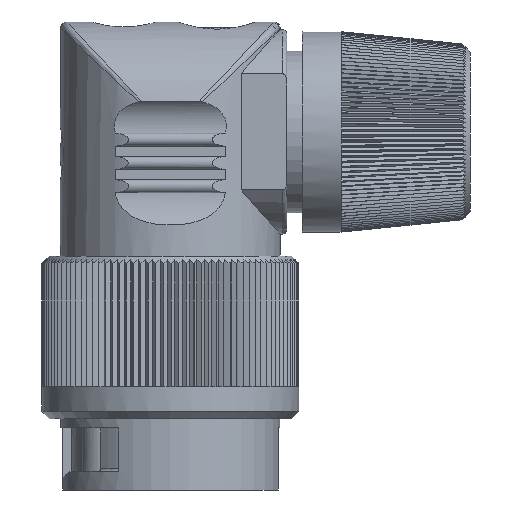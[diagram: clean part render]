
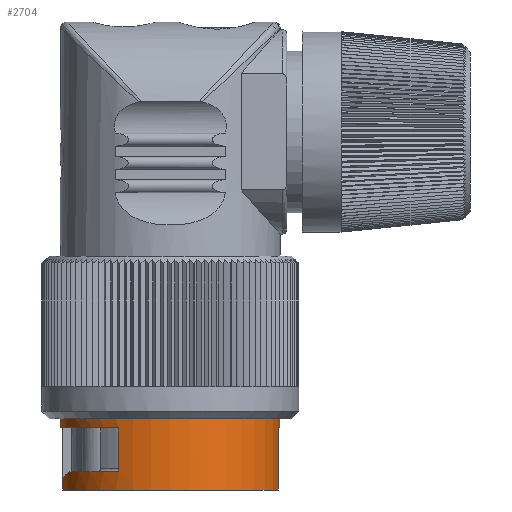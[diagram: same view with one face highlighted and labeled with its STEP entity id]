
A CAD part, front view. The second image highlights one B-rep face of the part: STEP entity #2704.
In plain terms, the highlighted cylindrical face has radius 8.475 mm (diameter 16.95 mm), a full revolution.
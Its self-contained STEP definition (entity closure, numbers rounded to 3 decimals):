
#113=ELLIPSE('',#16898,8.774,8.475);
#114=ELLIPSE('',#16902,8.774,8.475);
#2151=B_SPLINE_CURVE_WITH_KNOTS('',3,(#24173,#24174,#24175,#24176,#24177,
#24178,#24179,#24180,#24181,#24182,#24183,#24184,#24185),.UNSPECIFIED.,.F.,
 .F.,(4,3,3,3,4),(0.,0.261,0.523,0.781,
1.),.UNSPECIFIED.);
#2152=B_SPLINE_CURVE_WITH_KNOTS('',3,(#24201,#24202,#24203,#24204,#24205,
#24206,#24207,#24208,#24209,#24210,#24211,#24212,#24213),.UNSPECIFIED.,.F.,
 .F.,(4,3,3,3,4),(0.,0.261,0.523,0.781,
1.),.UNSPECIFIED.);
#2704=ADVANCED_FACE('',(#3691,#3692),#3647,.T.);
#3647=CYLINDRICAL_SURFACE('',#16907,8.475);
#3691=FACE_BOUND('',#3776,.T.);
#3692=FACE_BOUND('',#3777,.T.);
#3776=EDGE_LOOP('',(#6044,#6045,#6046,#6047,#6048,#6049,#6050,#6051,#6052,
#6053,#6054,#6055,#6056,#6057,#6058,#6059));
#3777=EDGE_LOOP('',(#6060));
#4974=CIRCLE('',#16899,8.475);
#4975=CIRCLE('',#16900,8.475);
#4976=CIRCLE('',#16901,8.475);
#4977=CIRCLE('',#16903,8.475);
#4978=CIRCLE('',#16904,8.475);
#4979=CIRCLE('',#16905,8.475);
#4980=CIRCLE('',#16906,8.475);
#6044=ORIENTED_EDGE('',*,*,#12503,.T.);
#6045=ORIENTED_EDGE('',*,*,#12504,.T.);
#6046=ORIENTED_EDGE('',*,*,#12505,.T.);
#6047=ORIENTED_EDGE('',*,*,#12506,.T.);
#6048=ORIENTED_EDGE('',*,*,#12507,.F.);
#6049=ORIENTED_EDGE('',*,*,#12508,.T.);
#6050=ORIENTED_EDGE('',*,*,#12509,.T.);
#6051=ORIENTED_EDGE('',*,*,#12510,.F.);
#6052=ORIENTED_EDGE('',*,*,#12511,.T.);
#6053=ORIENTED_EDGE('',*,*,#12512,.T.);
#6054=ORIENTED_EDGE('',*,*,#12513,.T.);
#6055=ORIENTED_EDGE('',*,*,#12514,.T.);
#6056=ORIENTED_EDGE('',*,*,#12515,.F.);
#6057=ORIENTED_EDGE('',*,*,#12516,.T.);
#6058=ORIENTED_EDGE('',*,*,#12517,.T.);
#6059=ORIENTED_EDGE('',*,*,#12518,.F.);
#6060=ORIENTED_EDGE('',*,*,#12519,.F.);
#10805=VERTEX_POINT('',#24171);
#10806=VERTEX_POINT('',#24172);
#10807=VERTEX_POINT('',#24186);
#10808=VERTEX_POINT('',#24188);
#10809=VERTEX_POINT('',#24190);
#10810=VERTEX_POINT('',#24192);
#10811=VERTEX_POINT('',#24194);
#10812=VERTEX_POINT('',#24196);
#10813=VERTEX_POINT('',#24198);
#10814=VERTEX_POINT('',#24200);
#10815=VERTEX_POINT('',#24214);
#10816=VERTEX_POINT('',#24216);
#10817=VERTEX_POINT('',#24218);
#10818=VERTEX_POINT('',#24220);
#10819=VERTEX_POINT('',#24222);
#10820=VERTEX_POINT('',#24224);
#10821=VERTEX_POINT('',#24227);
#12503=EDGE_CURVE('',#10805,#10806,#113,.T.);
#12504=EDGE_CURVE('',#10806,#10807,#2151,.T.);
#12505=EDGE_CURVE('',#10807,#10808,#14568,.T.);
#12506=EDGE_CURVE('',#10808,#10809,#4974,.T.);
#12507=EDGE_CURVE('',#10810,#10809,#14569,.T.);
#12508=EDGE_CURVE('',#10810,#10811,#4975,.T.);
#12509=EDGE_CURVE('',#10811,#10812,#14570,.T.);
#12510=EDGE_CURVE('',#10813,#10812,#4976,.T.);
#12511=EDGE_CURVE('',#10813,#10814,#114,.T.);
#12512=EDGE_CURVE('',#10814,#10815,#2152,.T.);
#12513=EDGE_CURVE('',#10815,#10816,#14571,.T.);
#12514=EDGE_CURVE('',#10816,#10817,#4977,.T.);
#12515=EDGE_CURVE('',#10818,#10817,#14572,.T.);
#12516=EDGE_CURVE('',#10818,#10819,#4978,.T.);
#12517=EDGE_CURVE('',#10819,#10820,#14573,.T.);
#12518=EDGE_CURVE('',#10805,#10820,#4979,.T.);
#12519=EDGE_CURVE('',#10821,#10821,#4980,.T.);
#14568=LINE('',#24187,#15732);
#14569=LINE('',#24191,#15733);
#14570=LINE('',#24195,#15734);
#14571=LINE('',#24215,#15735);
#14572=LINE('',#24219,#15736);
#14573=LINE('',#24223,#15737);
#15732=VECTOR('',#18834,1.);
#15733=VECTOR('',#18837,1.);
#15734=VECTOR('',#18840,1.);
#15735=VECTOR('',#18845,1.);
#15736=VECTOR('',#18848,1.);
#15737=VECTOR('',#18851,1.);
#16898=AXIS2_PLACEMENT_3D('',#24170,#18832,#18833);
#16899=AXIS2_PLACEMENT_3D('',#24189,#18835,#18836);
#16900=AXIS2_PLACEMENT_3D('',#24193,#18838,#18839);
#16901=AXIS2_PLACEMENT_3D('',#24197,#18841,#18842);
#16902=AXIS2_PLACEMENT_3D('',#24199,#18843,#18844);
#16903=AXIS2_PLACEMENT_3D('',#24217,#18846,#18847);
#16904=AXIS2_PLACEMENT_3D('',#24221,#18849,#18850);
#16905=AXIS2_PLACEMENT_3D('',#24225,#18852,#18853);
#16906=AXIS2_PLACEMENT_3D('',#24226,#18854,#18855);
#16907=AXIS2_PLACEMENT_3D('',#24228,#18856,#18857);
#18832=DIRECTION('',(0.,-0.259,-0.966));
#18833=DIRECTION('',(0.,-0.966,0.259));
#18834=DIRECTION('',(0.,0.,-1.));
#18835=DIRECTION('',(0.,0.,1.));
#18836=DIRECTION('',(-1.,0.,0.));
#18837=DIRECTION('',(0.,0.,-1.));
#18838=DIRECTION('',(0.,0.,1.));
#18839=DIRECTION('',(0.,-1.,0.));
#18840=DIRECTION('',(0.,0.,-1.));
#18841=DIRECTION('',(0.,0.,1.));
#18842=DIRECTION('',(0.,-1.,0.));
#18843=DIRECTION('',(0.,0.259,-0.966));
#18844=DIRECTION('',(0.,0.966,0.259));
#18845=DIRECTION('',(0.,0.,-1.));
#18846=DIRECTION('',(0.,0.,1.));
#18847=DIRECTION('',(-1.,0.,0.));
#18848=DIRECTION('',(0.,0.,-1.));
#18849=DIRECTION('',(0.,0.,1.));
#18850=DIRECTION('',(0.,1.,0.));
#18851=DIRECTION('',(0.,0.,-1.));
#18852=DIRECTION('',(0.,0.,1.));
#18853=DIRECTION('',(0.,1.,0.));
#18854=DIRECTION('',(0.,0.,1.));
#18855=DIRECTION('',(-1.,0.,0.));
#18856=DIRECTION('',(0.,0.,1.));
#18857=DIRECTION('',(-1.,0.,0.));
#24170=CARTESIAN_POINT('',(0.,0.,-19.011));
#24171=CARTESIAN_POINT('',(-7.763,-3.4,-18.1));
#24172=CARTESIAN_POINT('',(-8.313,-1.648,-18.569));
#24173=CARTESIAN_POINT('',(-8.313,-1.648,-18.569));
#24174=CARTESIAN_POINT('',(-8.317,-1.627,-18.575));
#24175=CARTESIAN_POINT('',(-8.322,-1.606,-18.585));
#24176=CARTESIAN_POINT('',(-8.325,-1.587,-18.598));
#24177=CARTESIAN_POINT('',(-8.329,-1.568,-18.61));
#24178=CARTESIAN_POINT('',(-8.332,-1.552,-18.627));
#24179=CARTESIAN_POINT('',(-8.334,-1.538,-18.645));
#24180=CARTESIAN_POINT('',(-8.337,-1.525,-18.663));
#24181=CARTESIAN_POINT('',(-8.339,-1.515,-18.684));
#24182=CARTESIAN_POINT('',(-8.34,-1.508,-18.706));
#24183=CARTESIAN_POINT('',(-8.341,-1.503,-18.724));
#24184=CARTESIAN_POINT('',(-8.341,-1.5,-18.743));
#24185=CARTESIAN_POINT('',(-8.341,-1.5,-18.763));
#24186=CARTESIAN_POINT('',(-8.341,-1.5,-18.763));
#24187=CARTESIAN_POINT('',(-8.341,-1.5,-18.1));
#24188=CARTESIAN_POINT('',(-8.341,-1.5,-19.5));
#24189=CARTESIAN_POINT('',(0.,0.,-19.5));
#24190=CARTESIAN_POINT('',(8.341,-1.5,-19.5));
#24191=CARTESIAN_POINT('',(8.341,-1.5,-14.7));
#24192=CARTESIAN_POINT('',(8.341,-1.5,-14.7));
#24193=CARTESIAN_POINT('',(0.,0.,-14.7));
#24194=CARTESIAN_POINT('',(3.979,7.483,-14.7));
#24195=CARTESIAN_POINT('',(3.979,7.483,-14.7));
#24196=CARTESIAN_POINT('',(3.979,7.483,-18.1));
#24197=CARTESIAN_POINT('',(0.,0.,-18.1));
#24198=CARTESIAN_POINT('',(7.763,3.4,-18.1));
#24199=CARTESIAN_POINT('',(0.,0.,-19.011));
#24200=CARTESIAN_POINT('',(8.313,1.648,-18.569));
#24201=CARTESIAN_POINT('',(8.313,1.648,-18.569));
#24202=CARTESIAN_POINT('',(8.317,1.627,-18.575));
#24203=CARTESIAN_POINT('',(8.322,1.606,-18.585));
#24204=CARTESIAN_POINT('',(8.325,1.587,-18.598));
#24205=CARTESIAN_POINT('',(8.329,1.568,-18.61));
#24206=CARTESIAN_POINT('',(8.332,1.552,-18.627));
#24207=CARTESIAN_POINT('',(8.334,1.538,-18.645));
#24208=CARTESIAN_POINT('',(8.337,1.525,-18.663));
#24209=CARTESIAN_POINT('',(8.339,1.515,-18.684));
#24210=CARTESIAN_POINT('',(8.34,1.508,-18.706));
#24211=CARTESIAN_POINT('',(8.341,1.503,-18.724));
#24212=CARTESIAN_POINT('',(8.341,1.5,-18.743));
#24213=CARTESIAN_POINT('',(8.341,1.5,-18.763));
#24214=CARTESIAN_POINT('',(8.341,1.5,-18.763));
#24215=CARTESIAN_POINT('',(8.341,1.5,-18.1));
#24216=CARTESIAN_POINT('',(8.341,1.5,-19.5));
#24217=CARTESIAN_POINT('',(0.,0.,-19.5));
#24218=CARTESIAN_POINT('',(-8.341,1.5,-19.5));
#24219=CARTESIAN_POINT('',(-8.341,1.5,-14.7));
#24220=CARTESIAN_POINT('',(-8.341,1.5,-14.7));
#24221=CARTESIAN_POINT('',(0.,0.,-14.7));
#24222=CARTESIAN_POINT('',(-3.979,-7.483,-14.7));
#24223=CARTESIAN_POINT('',(-3.979,-7.483,-14.7));
#24224=CARTESIAN_POINT('',(-3.979,-7.483,-18.1));
#24225=CARTESIAN_POINT('',(0.,0.,-18.1));
#24226=CARTESIAN_POINT('',(0.,0.,-14.));
#24227=CARTESIAN_POINT('',(-8.475,0.,-14.));
#24228=CARTESIAN_POINT('',(0.,0.,-16.75));
